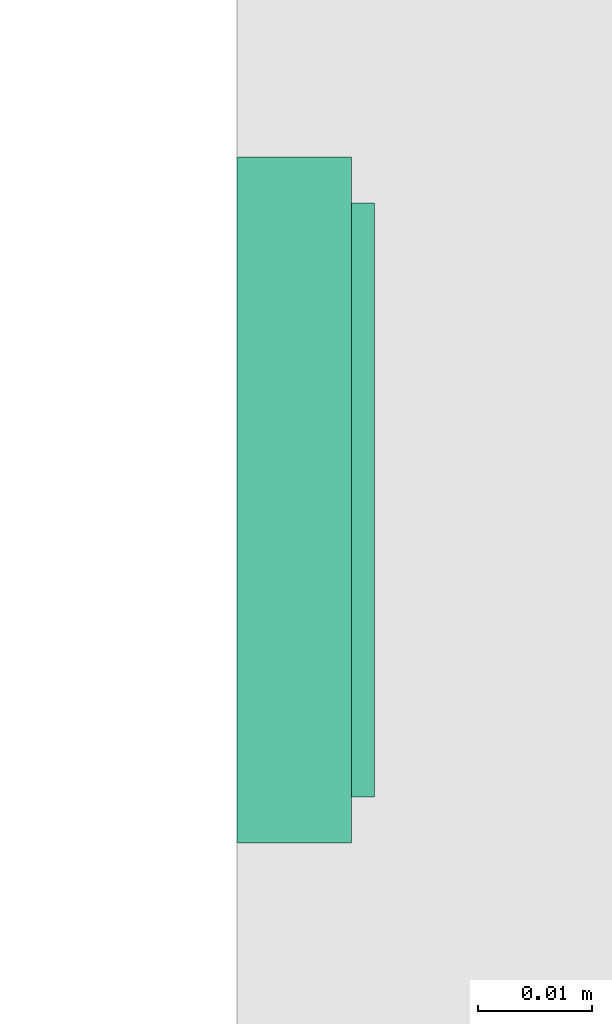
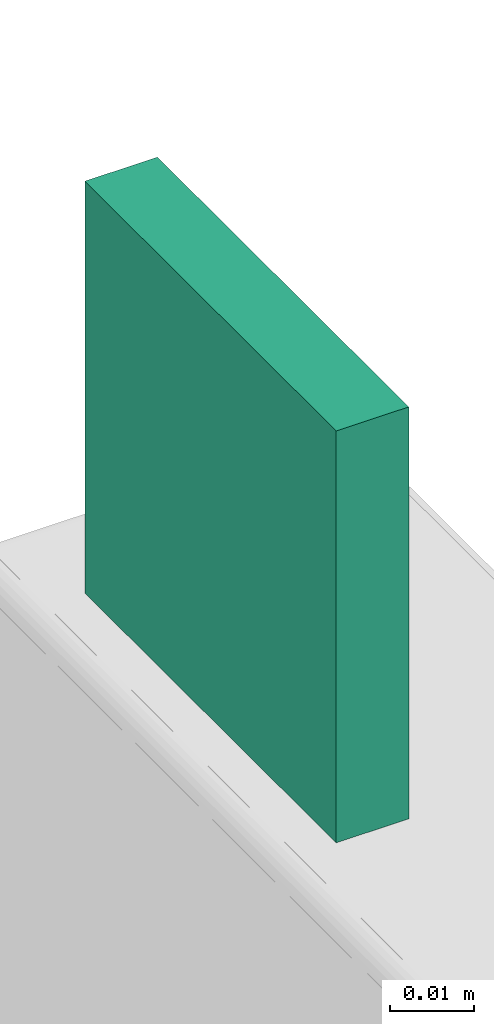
# One storey, part 3 of 5: 1 distribution control element.
"""IFC2X3 building model written with IfcOpenShell, lengths in millimetres."""

from ifc_helpers import new_model, entity, si_unit, converted_unit, derived_unit, direction, frame, origin_with_axes, place, context, subcontext, project, spatial, open_shell, surface_model, source, transform, mapped, type_object, element, save


model = new_model("IFC2X3")

# Units and contexts
model_context = context("Model", 3, precision=0.01, world=frame((0.0, 4.29681676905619e-09, 0.0)), true_north=direction((4.01073788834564e-13, 1.0)))
plan_context = context("Plan", 3, precision=0.01, world=frame((0.0, 4.29681676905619e-09, 0.0)), true_north=direction((4.01073788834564e-13, 1.0)))
body_context = subcontext(model_context, "Body", "Model", "MODEL_VIEW")
ifc_project = project(units=[converted_unit("PLANEANGLEUNIT", "DEGREE", entity("IfcPositiveLengthMeasure", 0.0174532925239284), si_unit("PLANEANGLEUNIT", "RADIAN"), dimensions=[0, 0, 0, 0, 0, 0, 0]), si_unit("AREAUNIT", "SQUARE_METRE"), si_unit("LENGTHUNIT", "METRE", prefix="MILLI"), si_unit("MASSUNIT", "GRAM", prefix="KILO"), si_unit("POWERUNIT", "WATT"), si_unit("PRESSUREUNIT", "PASCAL", prefix="KILO"), si_unit("FORCEUNIT", "NEWTON", prefix="KILO"), si_unit("ELECTRICVOLTAGEUNIT", "VOLT"), si_unit("ELECTRICCURRENTUNIT", "AMPERE"), si_unit("THERMODYNAMICTEMPERATUREUNIT", "DEGREE_CELSIUS"), si_unit("TIMEUNIT", "SECOND"), si_unit("VOLUMEUNIT", "CUBIC_METRE"), derived_unit("LINEARVELOCITYUNIT", [(si_unit("LENGTHUNIT", "METRE"), 1), (si_unit("TIMEUNIT", "SECOND"), -1)]), derived_unit("VOLUMETRICFLOWRATEUNIT", [(si_unit("VOLUMEUNIT", "CUBIC_METRE"), 1), (si_unit("TIMEUNIT", "SECOND"), -1)]), derived_unit("THERMALTRANSMITTANCEUNIT", [(si_unit("POWERUNIT", "WATT"), 1), (si_unit("THERMODYNAMICTEMPERATUREUNIT", "KELVIN"), -1), (si_unit("AREAUNIT", "SQUARE_METRE"), -1)]), derived_unit("SOUNDPRESSUREUNIT", [(si_unit("PRESSUREUNIT", "PASCAL"), 1)])], contexts=[model_context, plan_context])

# Site, building, storey
site_placement = place(None, frame((0.0, -4.29681676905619e-09, 0.0), z_axis=(0.0, 0.0, 1.0), x_axis=(1.0, 0.0, 0.0)))
site = spatial("IfcSite", under=ifc_project, at=site_placement, Name="ENGM", CompositionType="ELEMENT")
building_placement = place(site_placement, frame((0.0, 4.29681676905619e-09, 0.0), z_axis=(0.0, 0.0, 1.0), x_axis=(1.0, 0.0, 0.0)))
building = spatial("IfcBuilding", under=site, at=building_placement, Name="TI", CompositionType="ELEMENT")
storey_placement = place(building_placement, frame((0.0, 0.0, 210900.0), z_axis=(0.0, 0.0, 1.0), x_axis=(1.0, 0.0, 0.0)))
storey = spatial("IfcBuildingStorey", under=building, at=storey_placement, Name="Nivå F", CompositionType="ELEMENT", Elevation=210900.0)

# Distribution control element
alarm_type = type_object("IfcAlarmType", Name="Switch with one push button", PredefinedType="NOTDEFINED")
shared_shape = source(origin_with_axes(), body_context, "Body", "SurfaceModel", [
    surface_model("IfcShellBasedSurfaceModel", [(-30.0, 10.0, 30.0), (-30.0, 0.0, 30.0), (30.0, 0.0, 30.0), (30.0, 10.0, 30.0), (30.0, 10.0, -30.0), (30.0, 0.0, -30.0), (-30.0, 0.0, -30.0), (-30.0, 10.0, -30.0), (-26.0, 12.0, 26.0), (-26.0, 10.0, 26.0), (26.0, 12.0, 26.0), (26.0, 10.0, 26.0), (26.0, 12.0, -26.0), (26.0, 10.0, -26.0), (-26.0, 12.0, -26.0), (-26.0, 10.0, -26.0)], [open_shell([[[0, 1, 2]], [[2, 3, 0]], [[4, 5, 6]], [[6, 7, 4]], [[2, 1, 6]], [[6, 5, 2]], [[3, 2, 5]], [[5, 4, 3]], [[0, 3, 4]], [[4, 7, 0]], [[1, 0, 7]], [[7, 6, 1]], [[8, 9, 10]], [[11, 10, 9]], [[12, 13, 14]], [[15, 14, 13]], [[11, 9, 15]], [[15, 13, 11]], [[10, 11, 12]], [[13, 12, 11]], [[8, 10, 12]], [[12, 14, 8]], [[9, 8, 15]], [[14, 15, 8]]])]),
])
distribution_control_element_placement = place(storey_placement, frame((585718.64076, 576624.22251, 887.5), z_axis=(0.0, 0.0, 1.0), x_axis=(0.0, -1.0, 0.0)))
element("IfcDistributionControlElement", 1, at=distribution_control_element_placement, inside=storey, type_object=alarm_type, Name="Switch with one push button", context=body_context, shape_type="MappedRepresentation", body=[
    mapped(shared_shape, transform((0.0, 0.0, 0.0), scale=1.0)),
])

save(model, "model.ifc")
